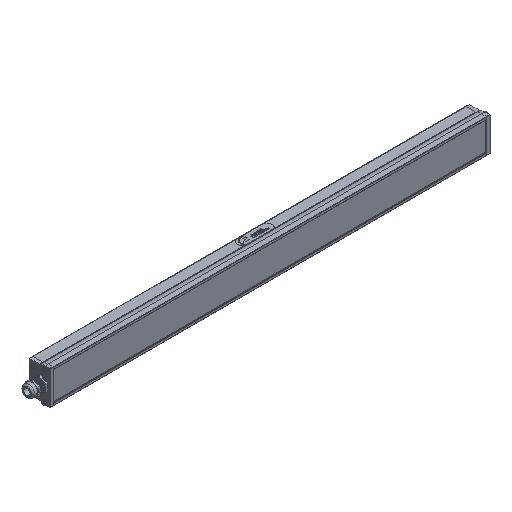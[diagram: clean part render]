
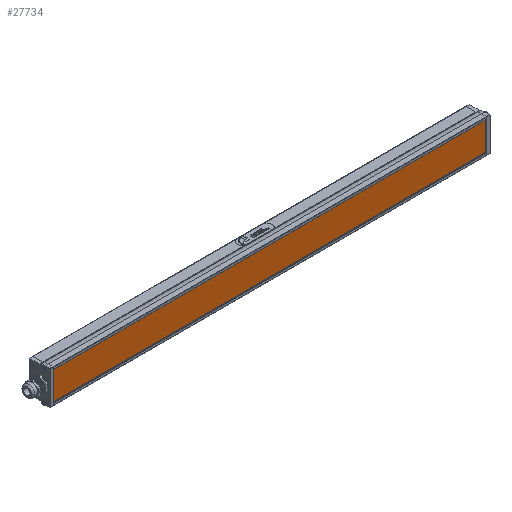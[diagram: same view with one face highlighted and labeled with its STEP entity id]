
A CAD part, isometric view. The second image highlights one B-rep face of the part: STEP entity #27734.
In plain terms, the highlighted planar face has unit normal (0, -1, 0) as drawn and (0, 1, 0) by its records, which use the part's own axes.
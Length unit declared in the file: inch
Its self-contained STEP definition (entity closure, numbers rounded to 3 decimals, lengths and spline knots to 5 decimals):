
#2819 = ORIENTED_EDGE ( 'NONE', *, *, #26404, .T. ) ;
#2883 = CARTESIAN_POINT ( 'NONE',  ( -8.135, 0.03, 0.586 ) ) ;
#3010 = FACE_OUTER_BOUND ( 'NONE', #30902, .T. ) ;
#3486 = CARTESIAN_POINT ( 'NONE',  ( -8.135, 0.03, -0.586 ) ) ;
#3638 = CARTESIAN_POINT ( 'NONE',  ( -8.135, 0.03, -0.586 ) ) ;
#4228 = DIRECTION ( 'NONE',  ( 0., 0., -1. ) ) ;
#6405 = CARTESIAN_POINT ( 'NONE',  ( -8.135, 0.03, -0.586 ) ) ;
#9024 = VERTEX_POINT ( 'NONE', #15309 ) ;
#9167 = VERTEX_POINT ( 'NONE', #14171 ) ;
#9528 = LINE ( 'NONE', #3486, #10231 ) ;
#10231 = VECTOR ( 'NONE', #10933, 39.37008 ) ;
#10726 = EDGE_CURVE ( 'NONE', #9167, #9024, #12104, .T. ) ;
#10933 = DIRECTION ( 'NONE',  ( -1., 0., 0. ) ) ;
#10978 = DIRECTION ( 'NONE',  ( 0., 0., 1. ) ) ;
#12104 = LINE ( 'NONE', #18755, #15251 ) ;
#13837 = ORIENTED_EDGE ( 'NONE', *, *, #10726, .T. ) ;
#14171 = CARTESIAN_POINT ( 'NONE',  ( 8.135, 0.03, 0.586 ) ) ;
#14936 = DIRECTION ( 'NONE',  ( 0., 1., 0. ) ) ;
#15251 = VECTOR ( 'NONE', #4228, 39.37008 ) ;
#15309 = CARTESIAN_POINT ( 'NONE',  ( 8.135, 0.03, -0.586 ) ) ;
#16415 = EDGE_CURVE ( 'NONE', #9024, #19162, #9528, .T. ) ;
#17096 = VECTOR ( 'NONE', #10978, 39.37008 ) ;
#17975 = DIRECTION ( 'NONE',  ( 1., 0., 0. ) ) ;
#18755 = CARTESIAN_POINT ( 'NONE',  ( 8.135, 0.03, -0.586 ) ) ;
#19162 = VERTEX_POINT ( 'NONE', #3638 ) ;
#20273 = CARTESIAN_POINT ( 'NONE',  ( -8.135, 0.03, 0.586 ) ) ;
#20605 = LINE ( 'NONE', #6405, #17096 ) ;
#22430 = AXIS2_PLACEMENT_3D ( 'NONE', #2883, #14936, #30274 ) ;
#23090 = LINE ( 'NONE', #20273, #26966 ) ;
#24073 = VERTEX_POINT ( 'NONE', #27041 ) ;
#26404 = EDGE_CURVE ( 'NONE', #24073, #9167, #23090, .T. ) ;
#26966 = VECTOR ( 'NONE', #17975, 39.37008 ) ;
#27041 = CARTESIAN_POINT ( 'NONE',  ( -8.135, 0.03, 0.586 ) ) ;
#27734 = ADVANCED_FACE ( 'NONE', ( #3010 ), #30380, .T. ) ;
#27996 = EDGE_CURVE ( 'NONE', #19162, #24073, #20605, .T. ) ;
#29148 = ORIENTED_EDGE ( 'NONE', *, *, #27996, .T. ) ;
#29754 = ORIENTED_EDGE ( 'NONE', *, *, #16415, .T. ) ;
#30274 = DIRECTION ( 'NONE',  ( 0., 0., 1. ) ) ;
#30380 = PLANE ( 'NONE',  #22430 ) ;
#30902 = EDGE_LOOP ( 'NONE', ( #29148, #2819, #13837, #29754 ) ) ;
